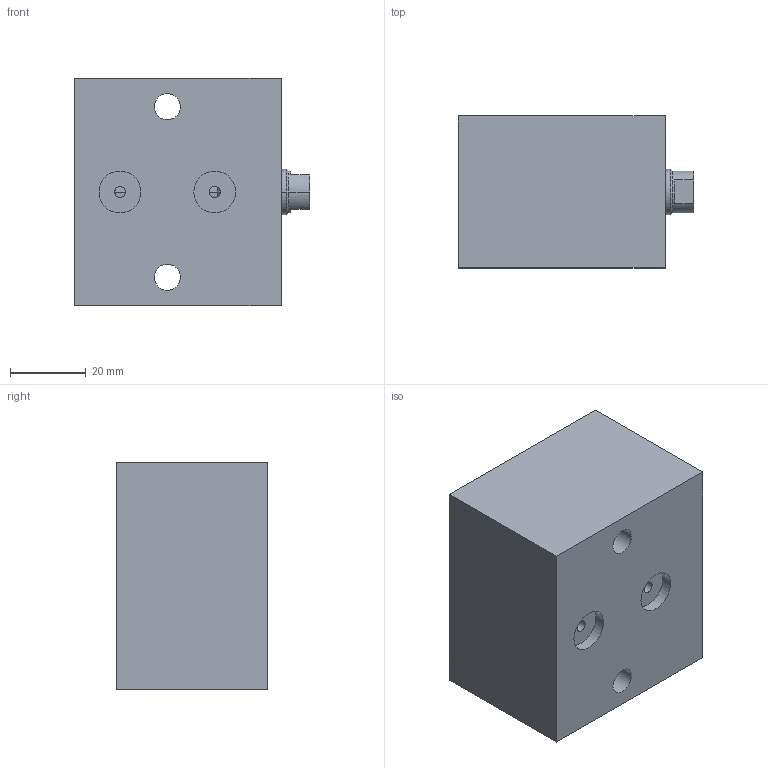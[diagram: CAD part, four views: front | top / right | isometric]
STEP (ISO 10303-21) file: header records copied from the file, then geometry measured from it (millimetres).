
FILE_DESCRIPTION((''),'2;1');
FILE_NAME('BMD-10162_ASM','2013-03-05T',('chad.steele'),(''),'PRO/ENGINEER BY PARAMETRIC TECHNOLOGY CORPORATION, 2010040','PRO/ENGINEER BY PARAMETRIC TECHNOLOGY CORPORATION, 2010040','');
FILE_SCHEMA(('CONFIG_CONTROL_DESIGN'));
Length unit declared in the file: millimetre
Products named in the file (4): CZ826005; PA2701044; PA2702040; BMD-10162_ASM
Assembly tree (3 placements, depth 2):
  BMD-10162_ASM
    CZ826005
    PA2701044
    PA2702040
Bounding box: 62 x 40 x 60 mm (x, y, z)
Volume: 123868.6 mm3; surface area: 27528 mm2
Topology: 3 solids, 6 shells, 107 faces, 249 edges, 154 vertices
Faces by surface type: cylinder 46, plane 31, cone 16, torus 14
Entity records: 3296 total; most frequent: CARTESIAN_POINT 624, DIRECTION 611, ORIENTED_EDGE 482, AXIS2_PLACEMENT_3D 258, EDGE_CURVE 247, VERTEX_POINT 154, CIRCLE 138, EDGE_LOOP 125
